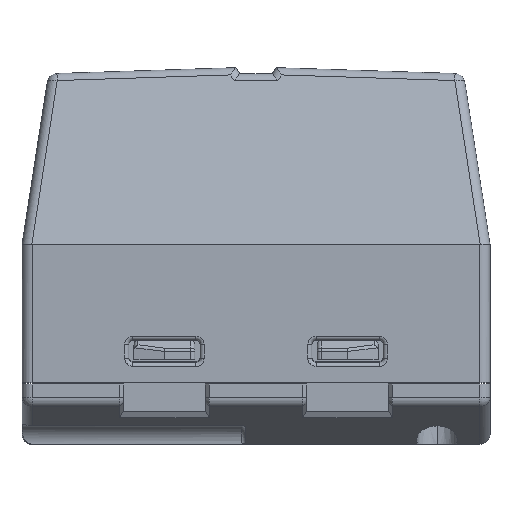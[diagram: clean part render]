
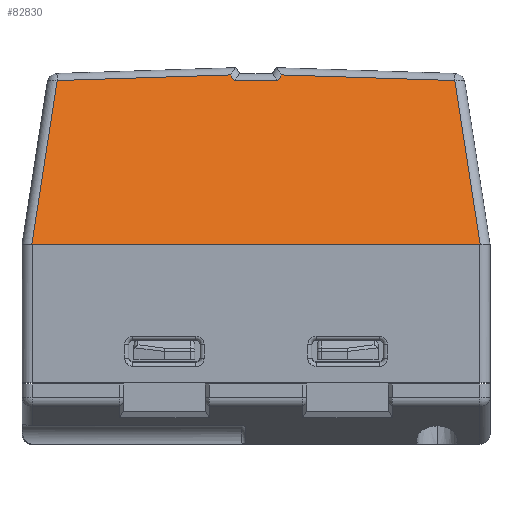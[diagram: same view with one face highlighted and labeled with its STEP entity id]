
A CAD part, top view. The second image highlights one B-rep face of the part: STEP entity #82830.
In plain terms, the highlighted planar face has unit normal (0, 0.306, 0.952).
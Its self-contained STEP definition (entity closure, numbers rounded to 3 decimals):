
#76780=CARTESIAN_POINT('',(36.715,44.535,9.));
#76790=VERTEX_POINT('',#76780);
#76820=CARTESIAN_POINT('',(95.431,44.535,9.));
#76830=DIRECTION('',(1.,0.,0.));
#76840=VECTOR('',#76830,1.);
#76850=LINE('',#76820,#76840);
#76860=CARTESIAN_POINT('',(58.715,44.535,9.));
#76870=VERTEX_POINT('',#76860);
#76880=EDGE_CURVE('',#76790,#76870,#76850,.T.);
#82030=CARTESIAN_POINT('',(33.915,53.235,6.2));
#82040=DIRECTION('',(0.,-0.306,
-0.952));
#82050=DIRECTION('',(0.,-0.952,
0.306));
#82060=AXIS2_PLACEMENT_3D('',#82030,#82040,#82050);
#82070=PLANE('',#82060);
#82080=CARTESIAN_POINT('',(65.215,2.653,
22.479));
#82090=DIRECTION('',(0.146,-0.942,
0.303));
#82100=VECTOR('',#82090,1.);
#82110=LINE('',#82080,#82100);
#82120=CARTESIAN_POINT('',(57.485,52.602,
6.404));
#82130=VERTEX_POINT('',#82120);
#82140=CARTESIAN_POINT('',(58.733,44.536,
9.));
#82150=VERTEX_POINT('',#82140);
#82160=EDGE_CURVE('',#82130,#82150,#82110,.T.);
#82170=ORIENTED_EDGE('',*,*,#82160,.F.);
#82180=CARTESIAN_POINT('',(58.715,46.088,8.5))
;
#82190=DIRECTION('',(0.,-0.306,
-0.952));
#82200=DIRECTION('',(0.,-0.952,
0.306));
#82210=AXIS2_PLACEMENT_3D('',#82180,#82190,#82200);
#82220=ELLIPSE('',#82210,1.632,0.5);
#82230=EDGE_CURVE('',#82150,#76870,#82220,.T.);
#82240=ORIENTED_EDGE('',*,*,#82230,.F.);
#82250=ORIENTED_EDGE('',*,*,#76880,.T.);
#82260=CARTESIAN_POINT('',(36.715,46.088,8.5))
;
#82270=DIRECTION('',(0.,-0.306,
-0.952));
#82280=DIRECTION('',(0.,-0.952,
0.306));
#82290=AXIS2_PLACEMENT_3D('',#82260,#82270,#82280);
#82300=ELLIPSE('',#82290,1.632,0.5);
#82310=CARTESIAN_POINT('',(36.698,44.536,
9.));
#82320=VERTEX_POINT('',#82310);
#82330=EDGE_CURVE('',#76790,#82320,#82300,.T.);
#82340=ORIENTED_EDGE('',*,*,#82330,.F.);
#82350=CARTESIAN_POINT('',(30.216,2.653,
22.479));
#82360=DIRECTION('',(-0.146,-0.942,
0.303));
#82370=VECTOR('',#82360,1.);
#82380=LINE('',#82350,#82370);
#82390=CARTESIAN_POINT('',(37.946,52.602,
6.404));
#82400=VERTEX_POINT('',#82390);
#82410=EDGE_CURVE('',#82400,#82320,#82380,.T.);
#82420=ORIENTED_EDGE('',*,*,#82410,.T.);
#82430=CARTESIAN_POINT('',(95.431,54.476,5.8));
#82440=DIRECTION('',(0.999,0.033,
-0.01));
#82450=VECTOR('',#82440,1.);
#82460=LINE('',#82430,#82450);
#82470=CARTESIAN_POINT('',(46.454,52.879,
6.314));
#82480=VERTEX_POINT('',#82470);
#82490=EDGE_CURVE('',#82400,#82480,#82460,.T.);
#82500=ORIENTED_EDGE('',*,*,#82490,.F.);
#82510=CARTESIAN_POINT('',(79.938,2.653,
22.479));
#82520=DIRECTION('',(-0.536,0.804,
-0.259));
#82530=VECTOR('',#82520,1.);
#82540=LINE('',#82510,#82530);
#82550=CARTESIAN_POINT('',(46.648,52.588,
6.408));
#82560=VERTEX_POINT('',#82550);
#82570=EDGE_CURVE('',#82560,#82480,#82540,.T.);
#82580=ORIENTED_EDGE('',*,*,#82570,.T.);
#82590=CARTESIAN_POINT('',(95.431,52.588,6.408));
#82600=DIRECTION('',(-1.,0.,0.));
#82610=VECTOR('',#82600,1.);
#82620=LINE('',#82590,#82610);
#82630=CARTESIAN_POINT('',(48.783,52.588,
6.408));
#82640=VERTEX_POINT('',#82630);
#82650=EDGE_CURVE('',#82640,#82560,#82620,.T.);
#82660=ORIENTED_EDGE('',*,*,#82650,.T.);
#82670=CARTESIAN_POINT('',(15.493,2.653,
22.479));
#82680=DIRECTION('',(-0.536,-0.804,
0.259));
#82690=VECTOR('',#82680,1.);
#82700=LINE('',#82670,#82690);
#82710=CARTESIAN_POINT('',(48.977,52.879,
6.314));
#82720=VERTEX_POINT('',#82710);
#82730=EDGE_CURVE('',#82720,#82640,#82700,.T.);
#82740=ORIENTED_EDGE('',*,*,#82730,.T.);
#82750=CARTESIAN_POINT('',(95.431,51.364,6.802));
#82760=DIRECTION('',(-0.999,0.033,
-0.01));
#82770=VECTOR('',#82760,1.);
#82780=LINE('',#82750,#82770);
#82790=EDGE_CURVE('',#82130,#82720,#82780,.T.);
#82800=ORIENTED_EDGE('',*,*,#82790,.T.);
#82810=EDGE_LOOP('',(#82800,#82740,#82660,#82580,#82500,#82420,#82340,
#82250,#82240,#82170));
#82820=FACE_OUTER_BOUND('',#82810,.T.);
#82830=ADVANCED_FACE('',(#82820),#82070,.F.);
